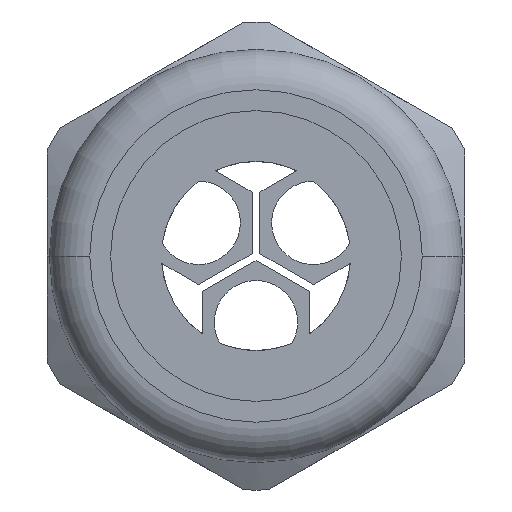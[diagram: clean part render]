
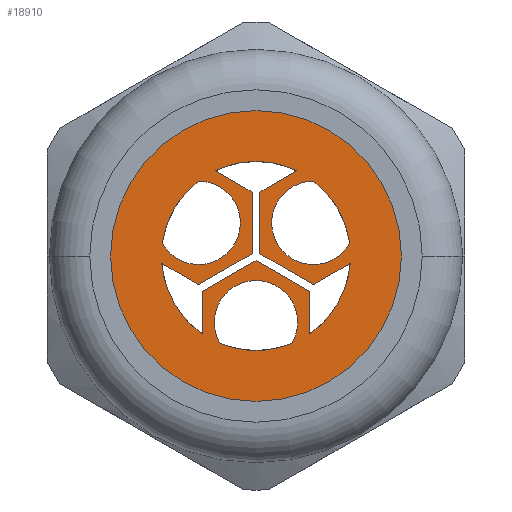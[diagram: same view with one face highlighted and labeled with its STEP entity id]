
A CAD part, left-side view. The second image highlights one B-rep face of the part: STEP entity #18910.
In plain terms, the highlighted planar face has unit normal (-1, 0, 0).
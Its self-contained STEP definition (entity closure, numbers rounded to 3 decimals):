
#980=CARTESIAN_POINT('',(-73.571,17.14,
-2.714));
#990=VERTEX_POINT('',#980);
#1140=CARTESIAN_POINT('',(-73.571,17.14,
-5.979));
#1150=VERTEX_POINT('',#1140);
#1180=CARTESIAN_POINT('',(-73.571,17.14,
0.));
#1190=DIRECTION('',(0.,0.,1.));
#1200=VECTOR('',#1190,1.);
#1210=LINE('',#1180,#1200);
#1220=EDGE_CURVE('',#1150,#990,#1210,.T.);
#3270=CARTESIAN_POINT('',(-73.571,28.425,
0.965));
#3280=VERTEX_POINT('',#3270);
#3310=CARTESIAN_POINT('',(-73.571,21.24,
0.));
#3320=DIRECTION('',(1.,0.,0.));
#3330=DIRECTION('',(0.,-1.,0.));
#3340=AXIS2_PLACEMENT_3D('',#3310,#3320,#3330);
#3350=CIRCLE('',#3340,7.25);
#3360=CARTESIAN_POINT('',(-73.571,25.668,
5.74));
#3370=VERTEX_POINT('',#3360);
#3380=EDGE_CURVE('',#3280,#3370,#3350,.T.);
#3560=CARTESIAN_POINT('',(-73.571,24.368,
6.54));
#3570=VERTEX_POINT('',#3560);
#3600=CARTESIAN_POINT('',(-73.571,18.112,
6.54));
#3610=VERTEX_POINT('',#3600);
#3620=EDGE_CURVE('',#3570,#3610,#3350,.T.);
#3850=CARTESIAN_POINT('',(-73.571,16.811,
5.74));
#3860=VERTEX_POINT('',#3850);
#3890=CARTESIAN_POINT('',(-73.571,14.054,
0.965));
#3900=VERTEX_POINT('',#3890);
#3910=EDGE_CURVE('',#3860,#3900,#3350,.T.);
#8090=CARTESIAN_POINT('',(-73.571,25.34,
-2.714));
#8100=VERTEX_POINT('',#8090);
#8130=CARTESIAN_POINT('',(-73.571,25.34,
0.));
#8140=DIRECTION('',(0.,0.,-1.));
#8150=VECTOR('',#8140,1.);
#8160=LINE('',#8130,#8150);
#8170=CARTESIAN_POINT('',(-73.571,25.34,
-5.979));
#8180=VERTEX_POINT('',#8170);
#8190=EDGE_CURVE('',#8100,#8180,#8160,.T.);
#15780=CARTESIAN_POINT('',(-73.571,21.54,
4.907));
#15790=VERTEX_POINT('',#15780);
#15820=CARTESIAN_POINT('',(-73.571,340.531,
189.077));
#15830=DIRECTION('',(0.,0.866,0.5));
#15840=VECTOR('',#15830,1.);
#15850=LINE('',#15820,#15840);
#15860=EDGE_CURVE('',#15790,#3570,#15850,.T.);
#16010=CARTESIAN_POINT('',(-73.571,21.24,
-0.346));
#16020=VERTEX_POINT('',#16010);
#16140=CARTESIAN_POINT('',(-73.571,340.531,
183.996));
#16150=DIRECTION('',(0.,0.866,0.5));
#16160=VECTOR('',#16150,1.);
#16170=LINE('',#16140,#16160);
#16180=EDGE_CURVE('',#990,#16020,#16170,.T.);
#16770=CARTESIAN_POINT('',(-73.571,25.64,
2.54));
#16780=DIRECTION('',(-1.,0.,0.));
#16790=DIRECTION('',(0.,-1.,0.));
#16800=AXIS2_PLACEMENT_3D('',#16770,#16780,#16790);
#16810=CIRCLE('',#16800,3.2);
#16820=CARTESIAN_POINT('',(-73.571,22.44,
2.54));
#16830=VERTEX_POINT('',#16820);
#16840=EDGE_CURVE('',#16830,#3370,#16810,.T.);
#17050=CARTESIAN_POINT('',(-73.571,23.997,
-6.705));
#17060=VERTEX_POINT('',#17050);
#17110=CARTESIAN_POINT('',(-73.571,21.24,
-5.081));
#17120=DIRECTION('',(-1.,0.,0.));
#17130=DIRECTION('',(0.,0.5,0.866));
#17140=AXIS2_PLACEMENT_3D('',#17110,#17120,#17130);
#17150=CIRCLE('',#17140,3.2);
#17160=CARTESIAN_POINT('',(-73.571,22.84,
-2.309));
#17170=VERTEX_POINT('',#17160);
#17180=EDGE_CURVE('',#17170,#17060,#17150,.T.);
#17690=CARTESIAN_POINT('',(-73.571,11.4,
3.635));
#17700=DIRECTION('',(-1.,0.,0.));
#17710=DIRECTION('',(0.,-1.,0.));
#17720=AXIS2_PLACEMENT_3D('',#17690,#17700,#17710);
#17730=PLANE('',#17720);
#17740=CARTESIAN_POINT('',(-73.571,21.24,
0.));
#17750=DIRECTION('',(-1.,0.,0.));
#17760=DIRECTION('',(0.,1.,0.));
#17770=AXIS2_PLACEMENT_3D('',#17740,#17750,#17760);
#17780=CIRCLE('',#17770,11.15);
#17790=CARTESIAN_POINT('',(-73.571,32.39,
0.));
#17800=VERTEX_POINT('',#17790);
#17810=CARTESIAN_POINT('',(-73.571,10.09,
0.));
#17820=VERTEX_POINT('',#17810);
#17830=EDGE_CURVE('',#17800,#17820,#17780,.T.);
#17840=ORIENTED_EDGE('',*,*,#17830,.T.);
#17850=EDGE_CURVE('',#17820,#17800,#17780,.T.);
#17860=ORIENTED_EDGE('',*,*,#17850,.T.);
#17870=EDGE_LOOP('',(#17860,#17840));
#17880=FACE_OUTER_BOUND('',#17870,.T.);
#17890=CARTESIAN_POINT('',(-73.571,18.483,
-6.705));
#17900=VERTEX_POINT('',#17890);
#17910=EDGE_CURVE('',#17900,#17170,#17150,.T.);
#17920=ORIENTED_EDGE('',*,*,#17910,.F.);
#17930=ORIENTED_EDGE('',*,*,#17180,.F.);
#17940=EDGE_CURVE('',#17900,#17060,#3350,.T.);
#17950=ORIENTED_EDGE('',*,*,#17940,.T.);
#17960=EDGE_LOOP('',(#17950,#17930,#17920));
#17970=FACE_BOUND('',#17960,.T.);
#17980=EDGE_CURVE('',#3280,#16830,#16810,.T.);
#17990=ORIENTED_EDGE('',*,*,#17980,.F.);
#18000=ORIENTED_EDGE('',*,*,#16840,.F.);
#18010=ORIENTED_EDGE('',*,*,#3380,.T.);
#18020=EDGE_LOOP('',(#18010,#18000,#17990));
#18030=FACE_BOUND('',#18020,.T.);
#18040=ORIENTED_EDGE('',*,*,#15860,.T.);
#18050=CARTESIAN_POINT('',(-73.571,21.54,
0.));
#18060=DIRECTION('',(0.,0.,1.));
#18070=VECTOR('',#18060,1.);
#18080=LINE('',#18050,#18070);
#18090=CARTESIAN_POINT('',(-73.571,21.54,
0.173));
#18100=VERTEX_POINT('',#18090);
#18110=EDGE_CURVE('',#18100,#15790,#18080,.T.);
#18120=ORIENTED_EDGE('',*,*,#18110,.T.);
#18130=CARTESIAN_POINT('',(-73.571,340.531,
-183.996));
#18140=DIRECTION('',(0.,-0.866,0.5));
#18150=VECTOR('',#18140,1.);
#18160=LINE('',#18130,#18150);
#18170=CARTESIAN_POINT('',(-73.571,25.64,
-2.194));
#18180=VERTEX_POINT('',#18170);
#18190=EDGE_CURVE('',#18180,#18100,#18160,.T.);
#18200=ORIENTED_EDGE('',*,*,#18190,.T.);
#18210=CARTESIAN_POINT('',(-73.571,340.531,
179.609));
#18220=DIRECTION('',(0.,-0.866,-0.5));
#18230=VECTOR('',#18220,1.);
#18240=LINE('',#18210,#18230);
#18250=CARTESIAN_POINT('',(-73.571,28.468,
-0.561));
#18260=VERTEX_POINT('',#18250);
#18270=EDGE_CURVE('',#18260,#18180,#18240,.T.);
#18280=ORIENTED_EDGE('',*,*,#18270,.T.);
#18290=EDGE_CURVE('',#8180,#18260,#3350,.T.);
#18300=ORIENTED_EDGE('',*,*,#18290,.T.);
#18310=ORIENTED_EDGE('',*,*,#8190,.T.);
#18320=CARTESIAN_POINT('',(-73.571,340.531,
-184.689));
#18330=DIRECTION('',(0.,0.866,-0.5));
#18340=VECTOR('',#18330,1.);
#18350=LINE('',#18320,#18340);
#18360=EDGE_CURVE('',#16020,#8100,#18350,.T.);
#18370=ORIENTED_EDGE('',*,*,#18360,.T.);
#18380=ORIENTED_EDGE('',*,*,#16180,.T.);
#18390=ORIENTED_EDGE('',*,*,#1220,.T.);
#18400=CARTESIAN_POINT('',(-73.571,14.012,
-0.561));
#18410=VERTEX_POINT('',#18400);
#18420=EDGE_CURVE('',#18410,#1150,#3350,.T.);
#18430=ORIENTED_EDGE('',*,*,#18420,.T.);
#18440=CARTESIAN_POINT('',(-73.571,340.531,
-189.077));
#18450=DIRECTION('',(0.,-0.866,0.5));
#18460=VECTOR('',#18450,1.);
#18470=LINE('',#18440,#18460);
#18480=CARTESIAN_POINT('',(-73.571,16.84,
-2.194));
#18490=VERTEX_POINT('',#18480);
#18500=EDGE_CURVE('',#18490,#18410,#18470,.T.);
#18510=ORIENTED_EDGE('',*,*,#18500,.T.);
#18520=CARTESIAN_POINT('',(-73.571,340.531,
184.689));
#18530=DIRECTION('',(0.,-0.866,-0.5));
#18540=VECTOR('',#18530,1.);
#18550=LINE('',#18520,#18540);
#18560=CARTESIAN_POINT('',(-73.571,20.94,
0.173));
#18570=VERTEX_POINT('',#18560);
#18580=EDGE_CURVE('',#18570,#18490,#18550,.T.);
#18590=ORIENTED_EDGE('',*,*,#18580,.T.);
#18600=CARTESIAN_POINT('',(-73.571,20.94,
0.));
#18610=DIRECTION('',(0.,0.,-1.));
#18620=VECTOR('',#18610,1.);
#18630=LINE('',#18600,#18620);
#18640=CARTESIAN_POINT('',(-73.571,20.94,
4.907));
#18650=VERTEX_POINT('',#18640);
#18660=EDGE_CURVE('',#18650,#18570,#18630,.T.);
#18670=ORIENTED_EDGE('',*,*,#18660,.T.);
#18680=CARTESIAN_POINT('',(-73.571,340.531,
-179.609));
#18690=DIRECTION('',(0.,0.866,-0.5));
#18700=VECTOR('',#18690,1.);
#18710=LINE('',#18680,#18700);
#18720=EDGE_CURVE('',#3610,#18650,#18710,.T.);
#18730=ORIENTED_EDGE('',*,*,#18720,.T.);
#18740=ORIENTED_EDGE('',*,*,#3620,.T.);
#18750=EDGE_LOOP('',(#18740,#18730,#18670,#18590,#18510,#18430,#18390,
#18380,#18370,#18310,#18300,#18280,#18200,#18120,#18040));
#18760=FACE_BOUND('',#18750,.T.);
#18770=CARTESIAN_POINT('',(-73.571,16.84,
2.54));
#18780=DIRECTION('',(-1.,0.,0.));
#18790=DIRECTION('',(0.,0.5,-0.866));
#18800=AXIS2_PLACEMENT_3D('',#18770,#18780,#18790);
#18810=CIRCLE('',#18800,3.2);
#18820=CARTESIAN_POINT('',(-73.571,18.44,
-0.231));
#18830=VERTEX_POINT('',#18820);
#18840=EDGE_CURVE('',#3860,#18830,#18810,.T.);
#18850=ORIENTED_EDGE('',*,*,#18840,.F.);
#18860=EDGE_CURVE('',#18830,#3900,#18810,.T.);
#18870=ORIENTED_EDGE('',*,*,#18860,.F.);
#18880=ORIENTED_EDGE('',*,*,#3910,.T.);
#18890=EDGE_LOOP('',(#18880,#18870,#18850));
#18900=FACE_BOUND('',#18890,.T.);
#18910=ADVANCED_FACE('',(#17880,#17970,#18030,#18760,#18900),#17730,.T.)
;
